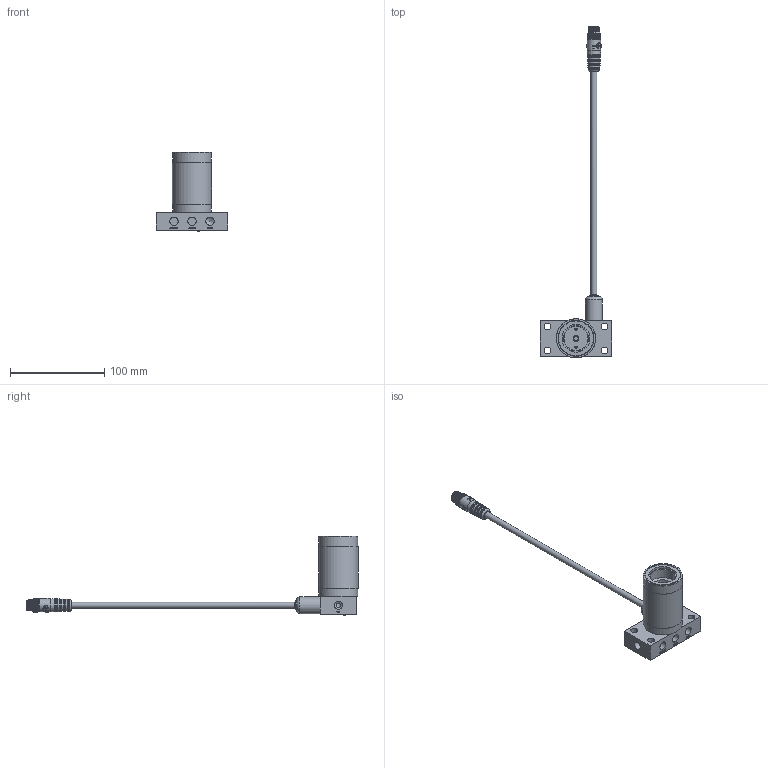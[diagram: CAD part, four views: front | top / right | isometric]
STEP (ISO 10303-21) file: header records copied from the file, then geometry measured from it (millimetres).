
FILE_DESCRIPTION(/* description */ ('ASSY,BODY,VF,IA,SXAR4,NHP_0002712391'),/* implementation_level */ '2;1');
FILE_NAME(/* name */ 'X:\ASSY,BODY,VF,IA,SXAR4,NHP_0002712391.stp',/* time_stamp */ '2021-07-07T14:10:27-04:00',/* author */ ('Simon.Britton'),/* organization */ (''),/* preprocessor_version */ 'ST-DEVELOPER v17',/* originating_system */ 'Autodesk Inventor 2019',/* authorisation */ '');
FILE_SCHEMA (('AUTOMOTIVE_DESIGN { 1 0 10303 214 3 1 1 }'));
Length unit declared in the file: millimetre
Products named in the file (1): ASSY,BODY,VF,IA,SXAR4,NHP_0002712391
Bounding box: 76.2 x 351.53 x 84 mm (x, y, z)
Volume: 115055.7 mm3; surface area: 64975.4 mm2
Topology: 1 solids, 69 shells, 3944 faces, 9312 edges, 5570 vertices
Faces by surface type: bspline 2506, plane 704, cylinder 655, cone 43, torus 23, sphere 13
Full cylindrical faces by diameter (mm): 1 x5, 1.05 x5, 1.25 x10, 1.35 x5, 1.6 x10, 2 x1, 2.381 x2, 2.464 x1, 2.7 x1, 2.997 x4, 3 x1, 3.2 x1, 4.366 x1, 4.496 x6, 4.763 x4, 4.8 x3, 5.7 x1, 6.35 x3, 6.4 x1, 6.5 x1, 7 x1, 7.144 x4, 8.731 x8, 9.4 x1, 9.7 x2, 10.6 x2, 10.9 x1, 12 x4, 12.7 x1, 13.31 x1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
Entity records: 255505 total; most frequent: CARTESIAN_POINT 171393, ORIENTED_EDGE 18582, DIRECTION 13356, EDGE_CURVE 9291, AXIS2_PLACEMENT_3D 5678, VERTEX_POINT 5568, CIRCLE 4181, EDGE_LOOP 4118
